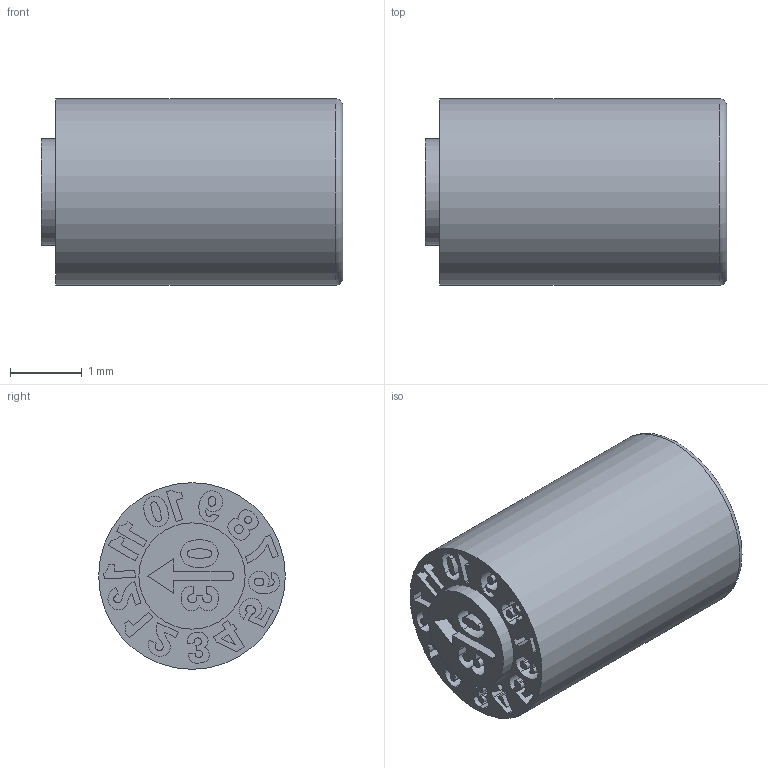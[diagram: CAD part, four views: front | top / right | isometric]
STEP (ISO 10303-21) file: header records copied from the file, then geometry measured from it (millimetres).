
FILE_DESCRIPTION( ( 'STEP AP203' ), ' ' );
FILE_NAME( 'p:/temp/worker_530/1640_2752/app_40_02016031009514255760652192d056f_000000_00_00_000000/format_0/FYM 02,6_200_(0.2).stp', '2016-03-10T08:51:43', ( '' ), ( '' ), ' ', 'PARTsolutions', ' ' );
FILE_SCHEMA( ( 'CONFIG_CONTROL_DESIGN' ) );
Length unit declared in the file: millimetre
Products named in the file (3): FYM 02,6/200*(0.2); _FYM 02,6/200*(0.2)1; _FYM 02,6/200*(0.2)2
Assembly tree (2 placements, depth 2):
  FYM 02,6/200*(0.2)
    _FYM 02,6/200*(0.2)1
    _FYM 02,6/200*(0.2)2
Bounding box: 4.2 x 2.6 x 2.6 mm (x, y, z)
Volume: 17.8 mm3; surface area: 79.6 mm2
Topology: 2 solids, 2 shells, 222 faces, 569 edges, 378 vertices
Faces by surface type: plane 128, cylinder 90, cone 3, torus 1
Full cylindrical faces by diameter (mm): 0.096 x1, 0.118 x1, 0.608 x1, 0.8 x1, 1.48 x2, 2.6 x1
Entity records: 6822 total; most frequent: DIRECTION 1192, CARTESIAN_POINT 1161, ORIENTED_EDGE 1116, EDGE_CURVE 558, AXIS2_PLACEMENT_3D 409, VERTEX_POINT 378, LINE 374, VECTOR 374
